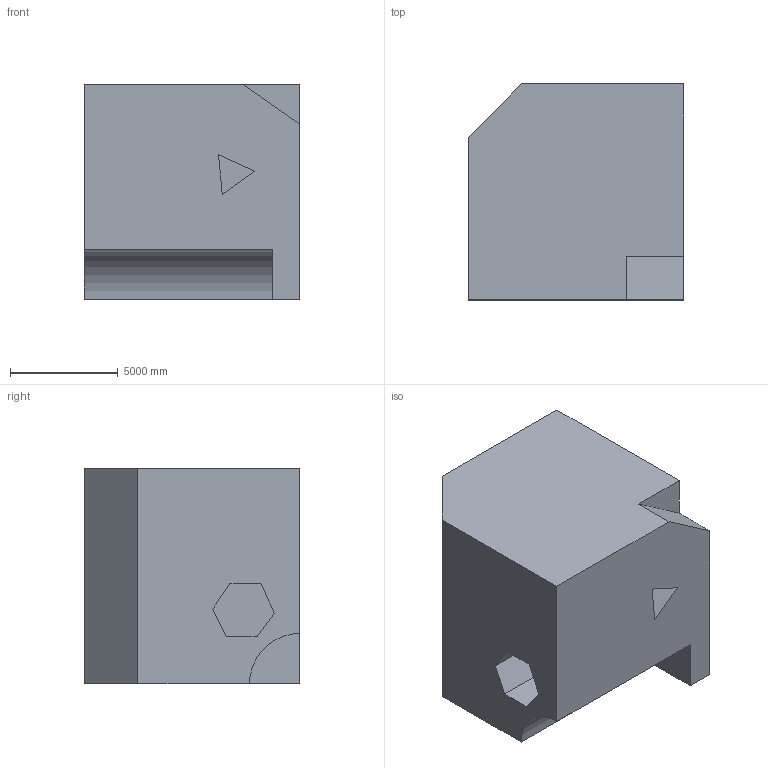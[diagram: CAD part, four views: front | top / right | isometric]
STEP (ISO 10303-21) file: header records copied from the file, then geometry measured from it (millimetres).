
FILE_DESCRIPTION (( 'STEP AP203' ), '1' );
FILE_NAME ('1460.STEP', '2022-08-18T14:36:33', ( 'user' ), ( '' ), 'SwSTEP 2.0', 'SolidWorks 2021', '' );
FILE_SCHEMA (( 'CONFIG_CONTROL_DESIGN' ));
Length unit declared in the file: centimetre
Products named in the file (1): 1460
Bounding box: 10000 x 10000 x 10000 mm (x, y, z)
Volume: 906453859580.6 mm3; surface area: 607588947.6 mm2
Topology: 1 solids, 1 shells, 22 faces, 54 edges, 36 vertices
Faces by surface type: plane 21, cylinder 1
Entity records: 717 total; most frequent: CARTESIAN_POINT 113, ORIENTED_EDGE 108, DIRECTION 102, EDGE_CURVE 54, LINE 52, VECTOR 52, VERTEX_POINT 36, AXIS2_PLACEMENT_3D 25
